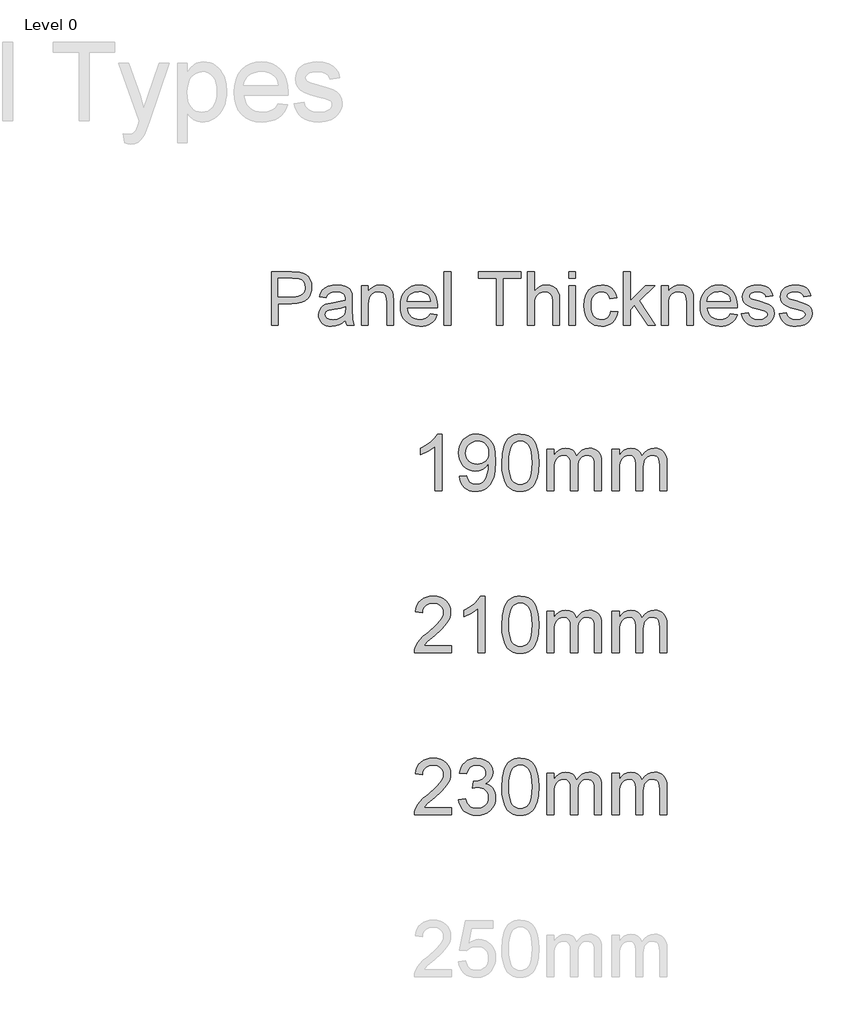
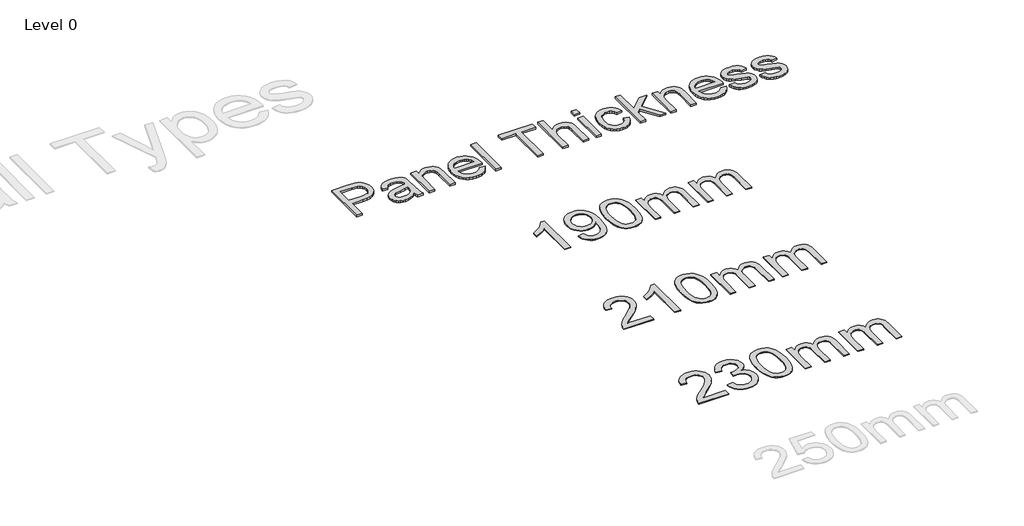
# One storey, part 6 of 11: 4 proxies.
"""IFC4 building model written with IfcOpenShell, lengths in millimetres."""

from ifc_helpers import new_model, si_unit, origin, origin_with_axes, place, context, project, spatial, polyline, outline, extrude, element, save

model = new_model("IFC4")

# Units and contexts
model_context = context("Model", 3, world=origin())
ifc_project = project(units=[si_unit("LENGTHUNIT", "METRE", prefix="MILLI")], contexts=[model_context])

# Site, building, storey
site = spatial("IfcSite", under=ifc_project)
building = spatial("IfcBuilding", under=site)
storey = spatial("IfcBuildingStorey", under=building, Name="Level 0", Elevation=0.0)

# Proxies
placement = place(None, origin())
element("IfcBuildingElementProxy", 1, Name="600mm Arial-500", ObjectType="600mm Arial-500", at=placement, inside=storey, context=model_context, shape_type="SweptSolid", body=[
    extrude(outline(polyline([(20624.1821466, 4207.4986854), (20561.3969527, 4207.4986854), (20561.3969527, 4598.9251283), (20535.1853606, 4577.7259283), (20501.9226968, 4556.5573852), (20435.826565, 4524.8582199), (20435.826565, 4584.2098485), (20485.1380808, 4611.0345773), (20527.8583775, 4642.9483404), (20561.5349085, 4676.8854544), (20583.7151271, 4709.7802362), (20624.1821466, 4709.7802362), (20624.1821466, 4207.4986854)])), origin_with_axes(), (0.0, 0.0, 1.0), 8.0),
    extrude(outline(polyline([(20781.1451312, 4333.0690731), (20843.930325, 4340.9172224), (20854.6602165, 4305.2786541), (20872.1346113, 4281.0137708), (20895.9243137, 4267.0802402), (20925.6001279, 4262.43573), (20952.2255873, 4265.4247713), (20976.4291569, 4274.3918949), (20996.5400393, 4288.3560823), (21010.8874372, 4306.3363148), (21021.7552844, 4329.972733), (21031.4275152, 4360.9054774), (21038.2333321, 4396.40609), (21040.5019378, 4433.7461125), (21040.1340558, 4446.0088456), (21018.3830328, 4419.4600283), (20989.9181634, 4398.4294409), (20956.7934554, 4384.7258366), (20921.0629167, 4380.1579685), (20891.2376503, 4382.9477403), (20863.8112812, 4391.3170557), (20838.7838092, 4405.2659147), (20816.1552344, 4424.7943173), (20797.4047489, 4448.8829237), (20784.011545, 4476.5123944), (20775.9756227, 4507.6827293), (20773.2969819, 4542.3939284), (20776.1059143, 4578.2624229), (20784.5327112, 4610.4520975), (20798.5773728, 4638.9629521), (20818.239899, 4663.7949868), (20842.1330682, 4683.9135334), (20868.8696586, 4698.2839238), (20898.4496703, 4706.9061581), (20930.8731032, 4709.7802362), (20954.8122576, 4708.1400956), (20977.7014155, 4703.2196739), (20999.5405769, 4695.0189711), (21020.3297417, 4683.5379872), (21039.3752992, 4669.0219768), (21055.9836384, 4651.7161946), (21070.1547594, 4631.6206406), (21081.8886622, 4608.7353148), (21091.0895442, 4581.7419734), (21097.6616028, 4549.3223726), (21102.9192496, 4468.2043927), (21097.6769312, 4382.1966479), (21091.1240331, 4346.5159265), (21081.9499759, 4315.7173057), (21070.1892484, 4289.0496931), (21055.8763395, 4265.7619964), (21039.0112493, 4245.8542155), (21019.5939777, 4229.3263505), (20998.0153994, 4216.3431817), (20974.666389, 4207.0694898), (20949.5469466, 4201.5052746), (20922.657072, 4199.6505362), (20894.4604499, 4201.8386677), (20868.9769575, 4208.403062), (20846.2065949, 4219.3437193), (20826.1493619, 4234.6606394), (20809.3110964, 4253.9399552), (20796.1976361, 4276.7677994), (20786.8089811, 4303.1441721), (20781.1451312, 4333.0690731)]), holes=[polyline([(21040.1340558, 4543.8654564), (21038.4402658, 4566.3675717), (21033.3588957, 4586.4171405), (21024.8899456, 4604.0141626), (21013.0334155, 4619.158638), (20998.3717851, 4631.3370649), (20981.4875344, 4640.0359413), (20962.3806632, 4645.2552671), (20941.0511717, 4646.9950423), (20919.0395657, 4645.1211434), (20899.1126243, 4639.4994467), (20881.2703475, 4630.1299521), (20865.5127354, 4617.0126597), (20852.6368656, 4600.9139903), (20843.4398157, 4582.6003648), (20837.9215858, 4562.071783), (20836.0821758, 4539.3282451), (20837.821951, 4518.9299549), (20843.0412769, 4500.532023), (20851.7401532, 4484.1344495), (20863.9185801, 4469.7372343), (20879.0707198, 4458.0148278), (20896.6907345, 4449.6416803), (20916.7786243, 4444.6177918), (20939.3343891, 4442.9431623), (20960.3688086, 4444.6177918), (20979.448855, 4449.6416803), (20996.5745283, 4458.0148278), (21011.7458285, 4469.7372343), (21024.1656779, 4484.4180252), (21033.0369989, 4501.6663258), (21038.3597916, 4521.4821362), (21040.1340558, 4543.8654564)])]), origin_with_axes(), (0.0, 0.0, 1.0), 8.0),
    extrude(outline(polyline([(21157.8562942, 4454.5927589), (21162.4701476, 4534.9903032), (21176.3117077, 4599.1090693), (21186.6583888, 4625.3091651), (21199.2430187, 4647.9300757), (21214.0655974, 4666.9718011), (21231.1261249, 4682.4343412), (21250.4820828, 4694.3981703), (21272.1909526, 4702.9437624), (21296.2527344, 4708.0711177), (21322.6674281, 4709.7802362), (21361.3563512, 4705.7335342), (21395.9985724, 4693.5934284), (21424.9692796, 4673.8350996), (21446.6436604, 4646.9337287), (21463.0144092, 4613.1192419), (21476.0742201, 4572.6215656), (21484.6274764, 4521.1947284), (21487.4785619, 4454.5927589), (21482.9106938, 4374.655067), (21469.2070895, 4310.6895851), (21458.9408826, 4284.4779929), (21446.4137342, 4261.8225934), (21431.6256444, 4242.7233865), (21414.5766132, 4227.1803722), (21395.1976627, 4215.1360689), (21373.419815, 4206.5329952), (21349.2430701, 4201.371151), (21322.6674281, 4199.6505362), (21288.0865205, 4202.6395774), (21257.4296876, 4211.606701), (21230.6969293, 4226.5519071), (21207.8882456, 4247.4751956), (21185.9992669, 4285.2980632), (21170.3642821, 4332.4252796), (21160.9832912, 4388.8568448), (21157.8562942, 4454.5927589)]), holes=[polyline([(21220.6414881, 4454.7153862), (21222.480898, 4400.1347273), (21227.999128, 4355.9543989), (21237.1961779, 4322.1744011), (21250.0720477, 4298.7947339), (21265.6457188, 4282.8876697), (21282.9361726, 4271.525481), (21301.943409, 4264.7081678), (21322.6674281, 4262.43573), (21343.3914471, 4264.715832), (21362.3986835, 4271.5561378), (21379.6891373, 4282.9566476), (21395.2628084, 4298.9173612), (21408.1386783, 4322.3353495), (21417.3357282, 4356.1076831), (21422.8539581, 4400.234362), (21424.6933681, 4454.7153862), (21422.9152718, 4507.8513419), (21417.5809828, 4551.2537531), (21408.6905013, 4584.9226199), (21396.2438271, 4608.8579422), (21380.9307391, 4625.5429235), (21363.4410159, 4637.4607673), (21343.7746575, 4644.6114736), (21321.9316641, 4646.9950423), (21301.3149439, 4644.8950493), (21282.6296043, 4638.5950701), (21265.8756451, 4628.0951048), (21251.0530663, 4613.3951534), (21237.7480008, 4587.3368455), (21228.2443826, 4552.2041149), (21222.5422117, 4507.9969618), (21220.6414881, 4454.7153862)])]), origin_with_axes(), (0.0, 0.0, 1.0), 8.0),
    extrude(outline(polyline([(21558.111905, 4207.4986854), (21558.111905, 4576.3616993), (21620.8970988, 4576.3616993), (21620.8970988, 4515.6611701), (21639.7817079, 4543.5435596), (21664.0619196, 4565.3865531), (21692.9099994, 4579.5040246), (21725.4982128, 4584.2098485), (21760.4163455, 4579.4120541), (21788.406034, 4565.0186711), (21809.313994, 4541.9800611), (21822.9869415, 4511.2465861), (21845.8722673, 4543.1680134), (21871.9765605, 4565.9690329), (21901.2998212, 4579.6496446), (21933.8420494, 4584.2098485), (21958.9768203, 4582.312957), (21981.0382437, 4576.6222823), (22000.0263196, 4567.1378247), (22015.941048, 4553.8595839), (22028.5218458, 4536.6342759), (22037.5081299, 4515.3086165), (22042.8999004, 4489.8826057), (22044.6971573, 4460.3562435), (22044.6971573, 4207.4986854), (21981.9119634, 4207.4986854), (21981.9119634, 4433.3782305), (21980.4557639, 4464.6941853), (21976.0871652, 4485.8014148), (21967.9017908, 4500.2561115), (21954.9952641, 4511.6144681), (21938.3945891, 4518.972108), (21919.1267696, 4521.4246547), (21901.3343102, 4519.853492), (21885.1130134, 4515.1400039), (21870.4628794, 4507.2841905), (21857.3839081, 4496.2860516), (21846.6271918, 4481.8236907), (21838.943823, 4463.5752109), (21834.3338018, 4441.5406122), (21832.797128, 4415.7198947), (21832.797128, 4207.4986854), (21770.0119342, 4207.4986854), (21770.0119342, 4440.3679884), (21766.3790995, 4475.8686009), (21755.4805954, 4501.1911449), (21747.0537984, 4510.0433054), (21736.3047464, 4516.3662772), (21707.839877, 4521.4246547), (21683.6516358, 4518.052403), (21661.3641183, 4507.9356482), (21642.9700185, 4491.3196447), (21630.4620307, 4468.4496473), (21623.2883318, 4436.7198253), (21620.8970988, 4393.5243477), (21620.8970988, 4207.4986854), (21558.111905, 4207.4986854)])), origin_with_axes(), (0.0, 0.0, 1.0), 8.0),
    extrude(outline(polyline([(22138.874948, 4207.4986854), (22138.874948, 4576.3616993), (22201.6601419, 4576.3616993), (22201.6601419, 4515.6611701), (22220.544751, 4543.5435596), (22244.8249626, 4565.3865531), (22273.6730424, 4579.5040246), (22306.2612558, 4584.2098485), (22341.1793885, 4579.4120541), (22369.169077, 4565.0186711), (22390.0770371, 4541.9800611), (22403.7499846, 4511.2465861), (22426.6353103, 4543.1680134), (22452.7396036, 4565.9690329), (22482.0628643, 4579.6496446), (22514.6050924, 4584.2098485), (22539.7398633, 4582.312957), (22561.8012867, 4576.6222823), (22580.7893626, 4567.1378247), (22596.704091, 4553.8595839), (22609.2848888, 4536.6342759), (22618.271173, 4515.3086165), (22623.6629435, 4489.8826057), (22625.4602003, 4460.3562435), (22625.4602003, 4207.4986854), (22562.6750065, 4207.4986854), (22562.6750065, 4433.3782305), (22561.2188069, 4464.6941853), (22556.8502082, 4485.8014148), (22548.6648338, 4500.2561115), (22535.7583072, 4511.6144681), (22519.1576321, 4518.972108), (22499.8898126, 4521.4246547), (22482.0973532, 4519.853492), (22465.8760565, 4515.1400039), (22451.2259225, 4507.2841905), (22438.1469511, 4496.2860516), (22427.3902349, 4481.8236907), (22419.7068661, 4463.5752109), (22415.0968448, 4441.5406122), (22413.5601711, 4415.7198947), (22413.5601711, 4207.4986854), (22350.7749773, 4207.4986854), (22350.7749773, 4440.3679884), (22347.1421426, 4475.8686009), (22336.2436384, 4501.1911449), (22327.8168415, 4510.0433054), (22317.0677894, 4516.3662772), (22288.6029201, 4521.4246547), (22264.4146789, 4518.052403), (22242.1271613, 4507.9356482), (22223.7330616, 4491.3196447), (22211.2250738, 4468.4496473), (22204.0513748, 4436.7198253), (22201.6601419, 4393.5243477), (22201.6601419, 4207.4986854), (22138.874948, 4207.4986854)])), origin_with_axes(), (0.0, 0.0, 1.0), 8.0),
])
element("IfcBuildingElementProxy", 2, Name="600mm Arial-500", ObjectType="600mm Arial-500", at=placement, inside=storey, context=model_context, shape_type="SweptSolid", body=[
    extrude(outline(polyline([(20710.5117881, 2830.2838793), (20710.5117881, 2767.4986854), (20380.8895204, 2767.4986854), (20382.2690779, 2789.602262), (20387.6340237, 2810.7861335), (20403.1310527, 2844.6159487), (20425.8324375, 2877.4340883), (20458.6505771, 2911.7850696), (20504.4978708, 2950.2134097), (20572.2341432, 3010.3927727), (20612.8391184, 3054.8145237), (20633.1186134, 3090.8669592), (20638.1884871, 3108.525295), (20639.878445, 3125.9383761), (20638.2804576, 3142.3206212), (20633.4864954, 3157.3769582), (20625.4965583, 3171.1073873), (20614.3106464, 3183.5119083), (20600.5495605, 3193.7857794), (20584.8341015, 3201.1242588), (20567.1642694, 3205.5273465), (20547.5400642, 3206.9950423), (20508.3759602, 3201.2622146), (20492.0703571, 3194.0961799), (20477.9490535, 3184.0637313), (20466.5255511, 3171.502094), (20458.313352, 3156.7484932), (20453.3124561, 3139.8029288), (20451.5228635, 3120.6654008), (20388.7376696, 3128.51355), (20394.1371043, 3160.9254867), (20403.9587872, 3189.2447361), (20418.2027182, 3213.4712983), (20436.8688973, 3233.6051733), (20459.528129, 3249.4317633), (20485.7512175, 3260.7364705), (20515.5381628, 3267.5192948), (20548.8889649, 3269.7802362), (20582.5386711, 3267.2663759), (20612.4865648, 3259.724795), (20638.7326459, 3247.1554935), (20661.2769144, 3229.5584714), (20679.3836064, 3208.2366441), (20692.3169577, 3184.492927), (20700.0769686, 3158.3273201), (20702.6636389, 3129.7398234), (20699.8738671, 3099.7114555), (20691.5045517, 3070.2042538), (20676.6513161, 3040.1912144), (20654.4097838, 3008.6453333), (20618.9551565, 2970.983414), (20564.462636, 2922.6222601), (20492.2351376, 2862.2282992), (20463.908224, 2830.2838793), (20710.5117881, 2830.2838793)])), origin_with_axes(), (0.0, 0.0, 1.0), 8.0),
    extrude(outline(polyline([(21008.7414589, 2767.4986854), (20945.956265, 2767.4986854), (20945.956265, 3158.9251283), (20919.7446729, 3137.7259283), (20886.4820091, 3116.5573852), (20820.3858773, 3084.8582199), (20820.3858773, 3144.2098485), (20869.6973931, 3171.0345773), (20912.4176898, 3202.9483404), (20946.0942208, 3236.8854544), (20968.2744394, 3269.7802362), (21008.7414589, 3269.7802362), (21008.7414589, 2767.4986854)])), origin_with_axes(), (0.0, 0.0, 1.0), 8.0),
    extrude(outline(polyline([(21157.8562942, 3014.5927589), (21162.4701476, 3094.9903032), (21176.3117077, 3159.1090693), (21186.6583888, 3185.3091651), (21199.2430187, 3207.9300757), (21214.0655974, 3226.9718011), (21231.1261249, 3242.4343412), (21250.4820828, 3254.3981703), (21272.1909526, 3262.9437624), (21296.2527344, 3268.0711177), (21322.6674281, 3269.7802362), (21361.3563512, 3265.7335342), (21395.9985724, 3253.5934284), (21424.9692796, 3233.8350996), (21446.6436604, 3206.9337287), (21463.0144092, 3173.1192419), (21476.0742201, 3132.6215656), (21484.6274764, 3081.1947284), (21487.4785619, 3014.5927589), (21482.9106938, 2934.655067), (21469.2070895, 2870.6895851), (21458.9408826, 2844.4779929), (21446.4137342, 2821.8225934), (21431.6256444, 2802.7233865), (21414.5766132, 2787.1803722), (21395.1976627, 2775.1360689), (21373.419815, 2766.5329952), (21349.2430701, 2761.371151), (21322.6674281, 2759.6505362), (21288.0865205, 2762.6395774), (21257.4296876, 2771.606701), (21230.6969293, 2786.5519071), (21207.8882456, 2807.4751956), (21185.9992669, 2845.2980632), (21170.3642821, 2892.4252796), (21160.9832912, 2948.8568448), (21157.8562942, 3014.5927589)]), holes=[polyline([(21220.6414881, 3014.7153862), (21222.480898, 2960.1347273), (21227.999128, 2915.9543989), (21237.1961779, 2882.1744011), (21250.0720477, 2858.7947339), (21265.6457188, 2842.8876697), (21282.9361726, 2831.525481), (21301.943409, 2824.7081678), (21322.6674281, 2822.43573), (21343.3914471, 2824.715832), (21362.3986835, 2831.5561378), (21379.6891373, 2842.9566476), (21395.2628084, 2858.9173612), (21408.1386783, 2882.3353495), (21417.3357282, 2916.1076831), (21422.8539581, 2960.234362), (21424.6933681, 3014.7153862), (21422.9152718, 3067.8513419), (21417.5809828, 3111.2537531), (21408.6905013, 3144.9226199), (21396.2438271, 3168.8579422), (21380.9307391, 3185.5429235), (21363.4410159, 3197.4607673), (21343.7746575, 3204.6114736), (21321.9316641, 3206.9950423), (21301.3149439, 3204.8950493), (21282.6296043, 3198.5950701), (21265.8756451, 3188.0951048), (21251.0530663, 3173.3951534), (21237.7480008, 3147.3368455), (21228.2443826, 3112.2041149), (21222.5422117, 3067.9969618), (21220.6414881, 3014.7153862)])]), origin_with_axes(), (0.0, 0.0, 1.0), 8.0),
    extrude(outline(polyline([(21558.111905, 2767.4986854), (21558.111905, 3136.3616993), (21620.8970988, 3136.3616993), (21620.8970988, 3075.6611701), (21639.7817079, 3103.5435596), (21664.0619196, 3125.3865531), (21692.9099994, 3139.5040246), (21725.4982128, 3144.2098485), (21760.4163455, 3139.4120541), (21788.406034, 3125.0186711), (21809.313994, 3101.9800611), (21822.9869415, 3071.2465861), (21845.8722673, 3103.1680134), (21871.9765605, 3125.9690329), (21901.2998212, 3139.6496446), (21933.8420494, 3144.2098485), (21958.9768203, 3142.312957), (21981.0382437, 3136.6222823), (22000.0263196, 3127.1378247), (22015.941048, 3113.8595839), (22028.5218458, 3096.6342759), (22037.5081299, 3075.3086165), (22042.8999004, 3049.8826057), (22044.6971573, 3020.3562435), (22044.6971573, 2767.4986854), (21981.9119634, 2767.4986854), (21981.9119634, 2993.3782305), (21980.4557639, 3024.6941853), (21976.0871652, 3045.8014148), (21967.9017908, 3060.2561115), (21954.9952641, 3071.6144681), (21938.3945891, 3078.972108), (21919.1267696, 3081.4246547), (21901.3343102, 3079.853492), (21885.1130134, 3075.1400039), (21870.4628794, 3067.2841905), (21857.3839081, 3056.2860516), (21846.6271918, 3041.8236907), (21838.943823, 3023.5752109), (21834.3338018, 3001.5406122), (21832.797128, 2975.7198947), (21832.797128, 2767.4986854), (21770.0119342, 2767.4986854), (21770.0119342, 3000.3679884), (21766.3790995, 3035.8686009), (21755.4805954, 3061.1911449), (21747.0537984, 3070.0433054), (21736.3047464, 3076.3662772), (21707.839877, 3081.4246547), (21683.6516358, 3078.052403), (21661.3641183, 3067.9356482), (21642.9700185, 3051.3196447), (21630.4620307, 3028.4496473), (21623.2883318, 2996.7198253), (21620.8970988, 2953.5243477), (21620.8970988, 2767.4986854), (21558.111905, 2767.4986854)])), origin_with_axes(), (0.0, 0.0, 1.0), 8.0),
    extrude(outline(polyline([(22138.874948, 2767.4986854), (22138.874948, 3136.3616993), (22201.6601419, 3136.3616993), (22201.6601419, 3075.6611701), (22220.544751, 3103.5435596), (22244.8249626, 3125.3865531), (22273.6730424, 3139.5040246), (22306.2612558, 3144.2098485), (22341.1793885, 3139.4120541), (22369.169077, 3125.0186711), (22390.0770371, 3101.9800611), (22403.7499846, 3071.2465861), (22426.6353103, 3103.1680134), (22452.7396036, 3125.9690329), (22482.0628643, 3139.6496446), (22514.6050924, 3144.2098485), (22539.7398633, 3142.312957), (22561.8012867, 3136.6222823), (22580.7893626, 3127.1378247), (22596.704091, 3113.8595839), (22609.2848888, 3096.6342759), (22618.271173, 3075.3086165), (22623.6629435, 3049.8826057), (22625.4602003, 3020.3562435), (22625.4602003, 2767.4986854), (22562.6750065, 2767.4986854), (22562.6750065, 2993.3782305), (22561.2188069, 3024.6941853), (22556.8502082, 3045.8014148), (22548.6648338, 3060.2561115), (22535.7583072, 3071.6144681), (22519.1576321, 3078.972108), (22499.8898126, 3081.4246547), (22482.0973532, 3079.853492), (22465.8760565, 3075.1400039), (22451.2259225, 3067.2841905), (22438.1469511, 3056.2860516), (22427.3902349, 3041.8236907), (22419.7068661, 3023.5752109), (22415.0968448, 3001.5406122), (22413.5601711, 2975.7198947), (22413.5601711, 2767.4986854), (22350.7749773, 2767.4986854), (22350.7749773, 3000.3679884), (22347.1421426, 3035.8686009), (22336.2436384, 3061.1911449), (22327.8168415, 3070.0433054), (22317.0677894, 3076.3662772), (22288.6029201, 3081.4246547), (22264.4146789, 3078.052403), (22242.1271613, 3067.9356482), (22223.7330616, 3051.3196447), (22211.2250738, 3028.4496473), (22204.0513748, 2996.7198253), (22201.6601419, 2953.5243477), (22201.6601419, 2767.4986854), (22138.874948, 2767.4986854)])), origin_with_axes(), (0.0, 0.0, 1.0), 8.0),
])
element("IfcBuildingElementProxy", 3, Name="600mm Arial-500", ObjectType="600mm Arial-500", at=placement, inside=storey, context=model_context, shape_type="SweptSolid", body=[
    extrude(outline(polyline([(20710.5117881, 1390.2838793), (20710.5117881, 1327.4986854), (20380.8895204, 1327.4986854), (20382.2690779, 1349.602262), (20387.6340237, 1370.7861335), (20403.1310527, 1404.6159487), (20425.8324375, 1437.4340883), (20458.6505771, 1471.7850696), (20504.4978708, 1510.2134097), (20572.2341432, 1570.3927727), (20612.8391184, 1614.8145237), (20633.1186134, 1650.8669592), (20638.1884871, 1668.525295), (20639.878445, 1685.9383761), (20638.2804576, 1702.3206212), (20633.4864954, 1717.3769582), (20625.4965583, 1731.1073873), (20614.3106464, 1743.5119083), (20600.5495605, 1753.7857794), (20584.8341015, 1761.1242588), (20567.1642694, 1765.5273465), (20547.5400642, 1766.9950423), (20508.3759602, 1761.2622146), (20492.0703571, 1754.0961799), (20477.9490535, 1744.0637313), (20466.5255511, 1731.502094), (20458.313352, 1716.7484932), (20453.3124561, 1699.8029288), (20451.5228635, 1680.6654008), (20388.7376696, 1688.51355), (20394.1371043, 1720.9254867), (20403.9587872, 1749.2447361), (20418.2027182, 1773.4712983), (20436.8688973, 1793.6051733), (20459.528129, 1809.4317633), (20485.7512175, 1820.7364705), (20515.5381628, 1827.5192948), (20548.8889649, 1829.7802362), (20582.5386711, 1827.2663759), (20612.4865648, 1819.724795), (20638.7326459, 1807.1554935), (20661.2769144, 1789.5584714), (20679.3836064, 1768.2366441), (20692.3169577, 1744.492927), (20700.0769686, 1718.3273201), (20702.6636389, 1689.7398234), (20699.8738671, 1659.7114555), (20691.5045517, 1630.2042538), (20676.6513161, 1600.1912144), (20654.4097838, 1568.6453333), (20618.9551565, 1530.983414), (20564.462636, 1482.6222601), (20492.2351376, 1422.2282992), (20463.908224, 1390.2838793), (20710.5117881, 1390.2838793)])), origin_with_axes(), (0.0, 0.0, 1.0), 8.0),
    extrude(outline(polyline([(20773.2969819, 1460.9172224), (20836.0821758, 1468.7653716), (20850.1383337, 1429.3100276), (20859.6151272, 1414.3878142), (20870.724397, 1402.6692398), (20883.7190621, 1393.8170793), (20898.8520412, 1387.4941075), (20935.5329418, 1382.43573), (20958.2803118, 1384.1755053), (20978.5751352, 1389.3948311), (20996.417412, 1398.0937075), (21011.8071421, 1410.2721343), (21024.2001669, 1425.018071), (21033.0523274, 1441.4194766), (21038.3636237, 1459.4763512), (21040.1340558, 1479.1886948), (21038.3789521, 1497.9621728), (21033.113641, 1515.0418609), (21024.3381226, 1530.4277589), (21012.0523968, 1544.1198669), (20997.0612055, 1555.3594283), (20980.1692906, 1563.3876864), (20961.376652, 1568.2046413), (20940.6832897, 1569.8102929), (20896.6600777, 1562.9431623), (20903.6498356, 1625.7283562), (20913.7052768, 1624.9925922), (20951.3212108, 1629.4991466), (20984.9517565, 1643.01881), (20998.7933166, 1653.2428637), (21008.6801452, 1665.8888073), (21014.6122424, 1680.9566407), (21016.5896081, 1698.4463639), (21010.8567803, 1725.5623326), (20993.658297, 1747.5586103), (20967.4160481, 1762.1359343), (20934.5519232, 1766.9950423), (20901.6264846, 1762.0899491), (20874.7097853, 1747.3746693), (20863.8189454, 1736.3382094), (20855.0587554, 1722.8492029), (20843.930325, 1688.51355), (20781.1451312, 1696.3616993), (20788.5870774, 1726.3364177), (20799.6312014, 1752.739615), (20814.2775034, 1775.5712914), (20832.5259832, 1794.8314466), (20853.8018252, 1810.1215421), (20877.5302139, 1821.0430388), (20903.7111492, 1827.5959368), (20932.3446312, 1829.7802362), (20971.8153036, 1825.4729512), (21008.0670085, 1812.5510961), (21038.631871, 1792.1643022), (21061.0420158, 1765.4622007), (21074.7916054, 1734.6980688), (21079.3748019, 1702.1251839), (21075.0215316, 1671.7749193), (21061.9617208, 1644.2450833), (21040.3793104, 1620.7926061), (21010.4582415, 1602.6744178), (21031.38153, 1596.129184), (21049.7603013, 1586.7941784), (21065.5945555, 1574.6694009), (21078.8842926, 1559.7548517), (21089.3995863, 1542.4184127), (21096.9105104, 1523.0279659), (21101.4170648, 1501.5835112), (21102.9192496, 1478.0850488), (21099.91488, 1446.2325994), (21090.9017711, 1416.8940103), (21075.879923, 1390.0692814), (21054.8493356, 1365.7584129), (21029.2278875, 1345.5862169), (21000.4334571, 1331.1775054), (20968.4660446, 1322.5322785), (20933.3256498, 1319.6505362), (20901.5651709, 1322.110747), (20872.6251206, 1329.4913796), (20846.505499, 1341.7924338), (20823.2063059, 1359.0139097), (20803.6702392, 1380.1441318), (20788.8399962, 1404.1714246), (20778.7155772, 1431.0957881), (20773.2969819, 1460.9172224)])), origin_with_axes(), (0.0, 0.0, 1.0), 8.0),
    extrude(outline(polyline([(21157.8562942, 1574.5927589), (21162.4701476, 1654.9903032), (21176.3117077, 1719.1090693), (21186.6583888, 1745.3091651), (21199.2430187, 1767.9300757), (21214.0655974, 1786.9718011), (21231.1261249, 1802.4343412), (21250.4820828, 1814.3981703), (21272.1909526, 1822.9437624), (21296.2527344, 1828.0711177), (21322.6674281, 1829.7802362), (21361.3563512, 1825.7335342), (21395.9985724, 1813.5934284), (21424.9692796, 1793.8350996), (21446.6436604, 1766.9337287), (21463.0144092, 1733.1192419), (21476.0742201, 1692.6215656), (21484.6274764, 1641.1947284), (21487.4785619, 1574.5927589), (21482.9106938, 1494.655067), (21469.2070895, 1430.6895851), (21458.9408826, 1404.4779929), (21446.4137342, 1381.8225934), (21431.6256444, 1362.7233865), (21414.5766132, 1347.1803722), (21395.1976627, 1335.1360689), (21373.419815, 1326.5329952), (21349.2430701, 1321.371151), (21322.6674281, 1319.6505362), (21288.0865205, 1322.6395774), (21257.4296876, 1331.606701), (21230.6969293, 1346.5519071), (21207.8882456, 1367.4751956), (21185.9992669, 1405.2980632), (21170.3642821, 1452.4252796), (21160.9832912, 1508.8568448), (21157.8562942, 1574.5927589)]), holes=[polyline([(21220.6414881, 1574.7153862), (21222.480898, 1520.1347273), (21227.999128, 1475.9543989), (21237.1961779, 1442.1744011), (21250.0720477, 1418.7947339), (21265.6457188, 1402.8876697), (21282.9361726, 1391.525481), (21301.943409, 1384.7081678), (21322.6674281, 1382.43573), (21343.3914471, 1384.715832), (21362.3986835, 1391.5561378), (21379.6891373, 1402.9566476), (21395.2628084, 1418.9173612), (21408.1386783, 1442.3353495), (21417.3357282, 1476.1076831), (21422.8539581, 1520.234362), (21424.6933681, 1574.7153862), (21422.9152718, 1627.8513419), (21417.5809828, 1671.2537531), (21408.6905013, 1704.9226199), (21396.2438271, 1728.8579422), (21380.9307391, 1745.5429235), (21363.4410159, 1757.4607673), (21343.7746575, 1764.6114736), (21321.9316641, 1766.9950423), (21301.3149439, 1764.8950493), (21282.6296043, 1758.5950701), (21265.8756451, 1748.0951048), (21251.0530663, 1733.3951534), (21237.7480008, 1707.3368455), (21228.2443826, 1672.2041149), (21222.5422117, 1627.9969618), (21220.6414881, 1574.7153862)])]), origin_with_axes(), (0.0, 0.0, 1.0), 8.0),
    extrude(outline(polyline([(21558.111905, 1327.4986854), (21558.111905, 1696.3616993), (21620.8970988, 1696.3616993), (21620.8970988, 1635.6611701), (21639.7817079, 1663.5435596), (21664.0619196, 1685.3865531), (21692.9099994, 1699.5040246), (21725.4982128, 1704.2098485), (21760.4163455, 1699.4120541), (21788.406034, 1685.0186711), (21809.313994, 1661.9800611), (21822.9869415, 1631.2465861), (21845.8722673, 1663.1680134), (21871.9765605, 1685.9690329), (21901.2998212, 1699.6496446), (21933.8420494, 1704.2098485), (21958.9768203, 1702.312957), (21981.0382437, 1696.6222823), (22000.0263196, 1687.1378247), (22015.941048, 1673.8595839), (22028.5218458, 1656.6342759), (22037.5081299, 1635.3086165), (22042.8999004, 1609.8826057), (22044.6971573, 1580.3562435), (22044.6971573, 1327.4986854), (21981.9119634, 1327.4986854), (21981.9119634, 1553.3782305), (21980.4557639, 1584.6941853), (21976.0871652, 1605.8014148), (21967.9017908, 1620.2561115), (21954.9952641, 1631.6144681), (21938.3945891, 1638.972108), (21919.1267696, 1641.4246547), (21901.3343102, 1639.853492), (21885.1130134, 1635.1400039), (21870.4628794, 1627.2841905), (21857.3839081, 1616.2860516), (21846.6271918, 1601.8236907), (21838.943823, 1583.5752109), (21834.3338018, 1561.5406122), (21832.797128, 1535.7198947), (21832.797128, 1327.4986854), (21770.0119342, 1327.4986854), (21770.0119342, 1560.3679884), (21766.3790995, 1595.8686009), (21755.4805954, 1621.1911449), (21747.0537984, 1630.0433054), (21736.3047464, 1636.3662772), (21707.839877, 1641.4246547), (21683.6516358, 1638.052403), (21661.3641183, 1627.9356482), (21642.9700185, 1611.3196447), (21630.4620307, 1588.4496473), (21623.2883318, 1556.7198253), (21620.8970988, 1513.5243477), (21620.8970988, 1327.4986854), (21558.111905, 1327.4986854)])), origin_with_axes(), (0.0, 0.0, 1.0), 8.0),
    extrude(outline(polyline([(22138.874948, 1327.4986854), (22138.874948, 1696.3616993), (22201.6601419, 1696.3616993), (22201.6601419, 1635.6611701), (22220.544751, 1663.5435596), (22244.8249626, 1685.3865531), (22273.6730424, 1699.5040246), (22306.2612558, 1704.2098485), (22341.1793885, 1699.4120541), (22369.169077, 1685.0186711), (22390.0770371, 1661.9800611), (22403.7499846, 1631.2465861), (22426.6353103, 1663.1680134), (22452.7396036, 1685.9690329), (22482.0628643, 1699.6496446), (22514.6050924, 1704.2098485), (22539.7398633, 1702.312957), (22561.8012867, 1696.6222823), (22580.7893626, 1687.1378247), (22596.704091, 1673.8595839), (22609.2848888, 1656.6342759), (22618.271173, 1635.3086165), (22623.6629435, 1609.8826057), (22625.4602003, 1580.3562435), (22625.4602003, 1327.4986854), (22562.6750065, 1327.4986854), (22562.6750065, 1553.3782305), (22561.2188069, 1584.6941853), (22556.8502082, 1605.8014148), (22548.6648338, 1620.2561115), (22535.7583072, 1631.6144681), (22519.1576321, 1638.972108), (22499.8898126, 1641.4246547), (22482.0973532, 1639.853492), (22465.8760565, 1635.1400039), (22451.2259225, 1627.2841905), (22438.1469511, 1616.2860516), (22427.3902349, 1601.8236907), (22419.7068661, 1583.5752109), (22415.0968448, 1561.5406122), (22413.5601711, 1535.7198947), (22413.5601711, 1327.4986854), (22350.7749773, 1327.4986854), (22350.7749773, 1560.3679884), (22347.1421426, 1595.8686009), (22336.2436384, 1621.1911449), (22327.8168415, 1630.0433054), (22317.0677894, 1636.3662772), (22288.6029201, 1641.4246547), (22264.4146789, 1638.052403), (22242.1271613, 1627.9356482), (22223.7330616, 1611.3196447), (22211.2250738, 1588.4496473), (22204.0513748, 1556.7198253), (22201.6601419, 1513.5243477), (22201.6601419, 1327.4986854), (22138.874948, 1327.4986854)])), origin_with_axes(), (0.0, 0.0, 1.0), 8.0),
])
element("IfcBuildingElementProxy", 4, Name="Arial-500 Blanco", ObjectType="Arial-500 Blanco", at=placement, inside=storey, context=model_context, shape_type="SweptSolid", body=[
    extrude(outline(polyline([(19108.0494051, 5675.3857513), (19108.0494051, 6155.0189703), (19285.804099, 6155.0189703), (19357.4680468, 6150.4521501), (19389.4211509, 6141.9186367), (19415.7242788, 6128.0278919), (19436.9043712, 6108.1505143), (19453.4883689, 6081.6571022), (19464.2028317, 6050.4065858), (19467.7743193, 6016.257895), (19465.3628333, 5986.8150782), (19458.1283754, 5959.7288578), (19446.0709454, 5934.9992336), (19429.1905435, 5912.6262058), (19406.0161266, 5894.0808174), (19375.0766516, 5880.8341113), (19336.3721185, 5872.8860877), (19289.9025274, 5870.2367465), (19168.0035574, 5870.2367465), (19168.0035574, 5675.3857513), (19108.0494051, 5675.3857513)]), holes=[polyline([(19168.0035574, 5930.1908989), (19293.415466, 5930.1908989), (19322.2508371, 5931.5667999), (19346.5779371, 5935.6945027), (19366.3967658, 5942.5740075), (19381.7073232, 5952.2053142), (19393.1316923, 5964.3322711), (19401.291956, 5978.6987263), (19406.1881142, 5995.3046799), (19407.8201669, 6014.1501318), (19403.9705717, 6041.0826612), (19392.421786, 6063.7996643), (19374.6082598, 6080.8959655), (19351.9644429, 6090.9663895), (19292.0102906, 6095.0648179), (19168.0035574, 6095.0648179), (19168.0035574, 5930.1908989)])]), origin_with_axes(), (0.0, 0.0, 1.0), 20.0),
    extrude(outline(polyline([(19767.5450812, 5720.3513656), (19738.8999942, 5695.7900698), (19709.4059471, 5679.7183756), (19678.3896266, 5670.8482056), (19645.1777194, 5667.8914823), (19618.4830452, 5669.6699074), (19595.0744324, 5675.005183), (19574.9518809, 5683.8973088), (19558.1153907, 5696.346285), (19544.8211136, 5711.5617004), (19535.3252014, 5728.7531438), (19529.6276541, 5747.9206151), (19527.7284717, 5769.0641144), (19530.5973716, 5793.9181551), (19539.2040712, 5816.4887857), (19552.4800517, 5835.8099481), (19569.3567943, 5850.9155841), (19589.1902602, 5862.3326346), (19611.3364107, 5870.5880404), (19663.2108043, 5879.6045828), (19724.5115831, 5889.0895171), (19767.1937873, 5900.2138227), (19767.5450812, 5913.5629894), (19763.4173783, 5940.3198719), (19751.0342697, 5957.826016), (19723.3406036, 5970.8238889), (19684.7568278, 5975.1565132), (19649.0419519, 5972.2729761), (19624.1000877, 5963.6223647), (19607.0916099, 5947.6238568), (19595.1768931, 5922.6966299), (19535.2227407, 5930.1908989), (19545.6298214, 5962.978326), (19561.1599375, 5988.7398758), (19583.2621763, 6008.4416066), (19613.3856249, 6023.0495763), (19650.2275687, 6032.0953932), (19692.4852928, 6035.1106656), (19733.015822, 6032.4466871), (19765.1445731, 6024.4547518), (19789.3692123, 6012.4375742), (19806.187406, 5997.6978693), (19817.3409861, 5979.4745002), (19824.5717847, 5957.0063303), (19827.4992336, 5904.546447), (19827.4992336, 5829.9550504), (19830.5437804, 5725.7964204), (19842.4877717, 5675.3857513), (19782.5336193, 5675.3857513), (19772.9315871, 5696.2291871), (19767.5450812, 5720.3513656)]), holes=[polyline([(19767.5450812, 5840.2596703), (19727.2633851, 5830.2770698), (19670.8221713, 5821.8752916), (19619.2405226, 5812.1561614), (19605.8181697, 5805.5108525), (19595.8794808, 5796.3479376), (19589.7318383, 5785.3700045), (19587.6826241, 5773.2796407), (19592.1469835, 5755.4514773), (19605.540062, 5740.8435075), (19627.5691146, 5731.0951028), (19657.9413964, 5727.8456346), (19690.1433337, 5731.4317595), (19718.5981365, 5742.190134), (19741.6664334, 5758.0422695), (19757.7088531, 5776.9096773), (19764.8225538, 5796.3479376), (19767.1937873, 5823.280467), (19767.5450812, 5840.2596703)])]), origin_with_axes(), (0.0, 0.0, 1.0), 20.0),
    extrude(outline(polyline([(19909.9361931, 5675.3857513), (19909.9361931, 6027.6163965), (19969.8903455, 6027.6163965), (19969.8903455, 5978.4352559), (19990.719144, 6003.2307476), (20015.7341944, 6020.9418131), (20044.9354966, 6031.5684525), (20078.3230507, 6035.1106656), (20107.8756468, 6032.2564029), (20134.9399114, 6023.6936151), (20157.510542, 6010.4908208), (20173.5822362, 5993.7165389), (20184.4869831, 5973.4146811), (20191.5567721, 5949.6291592), (20194.7184169, 5891.6656721), (20194.7184169, 5675.3857513), (20134.7642645, 5675.3857513), (20134.7642645, 5883.5859133), (20133.0370697, 5914.5875965), (20127.8554852, 5936.6312864), (20118.2973647, 5952.4248729), (20103.4405618, 5964.6762463), (20084.3975071, 5972.5364465), (20062.280631, 5975.1565132), (20027.1658821, 5969.272341), (20011.5516018, 5961.9171258), (19997.2327177, 5951.6198245), (19985.2704298, 5937.2094575), (19976.7259385, 5917.5150454), (19971.5992437, 5892.5365881), (19969.8903455, 5862.2740857), (19969.8903455, 5675.3857513), (19909.9361931, 5675.3857513)])), origin_with_axes(), (0.0, 0.0, 1.0), 20.0),
    extrude(outline(polyline([(20523.7636672, 5780.305518), (20582.54684, 5772.8112489), (20573.5339569, 5749.2672416), (20561.3667476, 5728.5189479), (20546.0452122, 5710.5663678), (20527.5693507, 5695.4095014), (20506.1294472, 5683.370368), (20481.9157859, 5674.770987), (20454.9283669, 5669.6113585), (20425.1671901, 5667.8914823), (20387.9666338, 5670.8591835), (20354.8205943, 5679.7622873), (20325.7290714, 5694.6007937), (20300.6920651, 5715.3747025), (20280.5585357, 5741.5058428), (20266.1774432, 5772.4160433), (20257.5487877, 5808.1053041), (20254.6725692, 5848.5736251), (20257.5780622, 5890.4141877), (20266.2945412, 5927.2927245), (20280.8220061, 5959.2092356), (20301.1604569, 5986.1637208), (20326.1315956, 6007.5780092), (20354.5571239, 6022.8739294), (20386.4370418, 6032.0514815), (20421.7713494, 6035.1106656), (20455.9676112, 6032.0588001), (20486.892449, 6022.9032039), (20514.5458626, 6007.6438768), (20538.9278522, 5986.2808188), (20558.8308451, 5959.3848825), (20573.0472685, 5927.5269204), (20581.5771226, 5890.7069326), (20584.4204073, 5848.9249189), (20584.0691134, 5832.7654013), (20314.6267216, 5832.7654013), (20318.0994078, 5808.8408256), (20325.0045278, 5787.8876105), (20335.3420815, 5769.9057559), (20349.112069, 5754.895262), (20365.5533536, 5743.06105), (20383.9047986, 5734.6080415), (20404.1664039, 5729.5362363), (20426.3381696, 5727.8456346), (20458.247362, 5730.9780049), (20485.1213424, 5740.3751157), (20506.9601108, 5756.6224568), (20523.7636672, 5780.305518)]), holes=[polyline([(20314.6267216, 5892.7195537), (20524.4662549, 5892.7195537), (20516.3572216, 5924.3945502), (20500.4611744, 5947.0530043), (20484.1113726, 5959.3482894), (20465.5074352, 5968.1306359), (20444.6493621, 5973.4000439), (20421.5371535, 5975.1565132), (20381.1237222, 5969.5504486), (20363.5407325, 5962.542868), (20347.7068936, 5952.732255), (20334.4199351, 5940.5723644), (20324.477587, 5926.5169506), (20317.8798491, 5910.5660137), (20314.6267216, 5892.7195537)])]), origin_with_axes(), (0.0, 0.0, 1.0), 20.0),
    extrude(outline(polyline([(20644.3745597, 5675.3857513), (20644.3745597, 6155.0189703), (20704.3287121, 6155.0189703), (20704.3287121, 5675.3857513), (20644.3745597, 5675.3857513)])), origin_with_axes(), (0.0, 0.0, 1.0), 20.0),
    extrude(outline(polyline([(21109.0192406, 5675.3857513), (21109.0192406, 6095.0648179), (20951.6395906, 6095.0648179), (20951.6395906, 6155.0189703), (21326.353043, 6155.0189703), (21326.353043, 6095.0648179), (21168.973393, 6095.0648179), (21168.973393, 5675.3857513), (21109.0192406, 5675.3857513)])), origin_with_axes(), (0.0, 0.0, 1.0), 20.0),
    extrude(outline(polyline([(21386.3071953, 5675.3857513), (21386.3071953, 6155.0189703), (21446.2613477, 6155.0189703), (21446.2613477, 5978.6694518), (21468.2830817, 6003.3624828), (21493.0127058, 6021.0003621), (21520.4502201, 6031.5830897), (21550.5956246, 6035.1106656), (21586.8081668, 6031.2610703), (21617.9269481, 6019.7122846), (21642.4296949, 6001.3718176), (21658.794134, 5977.1471784), (21668.0155978, 5943.862085), (21671.0894191, 5898.3402554), (21671.0894191, 5675.3857513), (21611.1352667, 5675.3857513), (21611.1352667, 5892.1340639), (21606.3635251, 5929.6639581), (21600.3988481, 5943.9938202), (21592.0483003, 5955.366959), (21568.9800033, 5970.2091246), (21537.9490456, 5975.1565132), (21512.6119758, 5971.8192215), (21488.8264539, 5961.8073464), (21469.1247232, 5946.0869461), (21456.0390269, 5925.6240787), (21448.7057675, 5898.4280789), (21446.2613477, 5862.5082816), (21446.2613477, 5675.3857513), (21386.3071953, 5675.3857513)])), origin_with_axes(), (0.0, 0.0, 1.0), 20.0),
    extrude(outline(polyline([(21753.5263786, 6095.0648179), (21753.5263786, 6155.0189703), (21813.480531, 6155.0189703), (21813.480531, 6095.0648179), (21753.5263786, 6095.0648179)])), origin_with_axes(), (0.0, 0.0, 1.0), 20.0),
    extrude(outline(polyline([(21753.5263786, 5675.3857513), (21753.5263786, 6027.6163965), (21813.480531, 6027.6163965), (21813.480531, 5675.3857513), (21753.5263786, 5675.3857513)])), origin_with_axes(), (0.0, 0.0, 1.0), 20.0),
    extrude(outline(polyline([(22128.239831, 5802.7883251), (22188.1939834, 5795.2940561), (22181.673091, 5767.0039223), (22171.4782504, 5741.9705753), (22157.6094615, 5720.1940152), (22140.0667243, 5701.6742419), (22119.5892196, 5686.8942846), (22096.9161283, 5676.3371722), (22072.0474504, 5670.0029047), (22044.9831858, 5667.8914823), (22011.3577765, 5670.8372277), (21981.2087127, 5679.6744639), (21954.5359944, 5694.4031909), (21931.3396216, 5715.0234087), (21912.5636965, 5741.1472303), (21899.1523215, 5772.3867688), (21891.1054965, 5808.7420242), (21888.4232215, 5850.2129964), (21893.0046789, 5903.5657516), (21906.7490513, 5949.8048062), (21917.1122202, 5969.8102597), (21929.8758971, 5987.1444162), (21945.0400822, 6001.8072756), (21962.6047752, 6013.798838), (22001.7594036, 6029.7827087), (22044.1635001, 6035.1106656), (22070.7630322, 6033.28101), (22094.8230024, 6027.7920434), (22116.3434107, 6018.6437658), (22135.3242572, 6005.8361771), (22151.4435224, 5989.6620222), (22164.379187, 5970.414046), (22174.131251, 5948.0922486), (22180.6997143, 5922.6966299), (22120.7455619, 5915.2023608), (22109.8700895, 5941.3591162), (22092.9347979, 5960.1094261), (22070.8764708, 5971.3947414), (22044.6318919, 5975.1565132), (22024.2605073, 5973.3049018), (22005.8871064, 5967.7500676), (21989.5116895, 5958.4920106), (21975.1342563, 5945.5307309), (21963.4281202, 5928.5661648), (21955.0665945, 5907.2982489), (21950.049679, 5881.7269832), (21948.3773738, 5851.8523678), (21950.0130859, 5821.527657), (21954.920222, 5795.6599872), (21963.0987822, 5774.2493582), (21974.5487665, 5757.29577), (21988.6407734, 5744.4113358), (22004.7454014, 5735.2081685), (22022.8626504, 5729.6862681), (22042.9925206, 5727.8456346), (22074.0381156, 5732.4417293), (22099.4922833, 5746.2300134), (22118.0083973, 5769.5617807), (22128.239831, 5802.7883251)])), origin_with_axes(), (0.0, 0.0, 1.0), 20.0),
    extrude(outline(polyline([(22240.6538667, 5675.3857513), (22240.6538667, 6155.0189703), (22300.6080191, 6155.0189703), (22300.6080191, 5897.2863739), (22435.0364701, 6027.6163965), (22517.9418214, 6027.6163965), (22381.7569011, 5895.6470025), (22525.4360905, 5675.3857513), (22455.4115141, 5675.3857513), (22338.781952, 5853.9601309), (22300.6080191, 5816.8400796), (22300.6080191, 5675.3857513), (22240.6538667, 5675.3857513)])), origin_with_axes(), (0.0, 0.0, 1.0), 20.0),
    extrude(outline(polyline([(22577.8959738, 5675.3857513), (22577.8959738, 6027.6163965), (22637.8501262, 6027.6163965), (22637.8501262, 5978.4352559), (22658.6789247, 6003.2307476), (22683.6939751, 6020.9418131), (22712.8952773, 6031.5684525), (22746.2828314, 6035.1106656), (22775.8354275, 6032.2564029), (22802.8996921, 6023.6936151), (22825.4703227, 6010.4908208), (22841.5420169, 5993.7165389), (22852.4467639, 5973.4146811), (22859.5165528, 5949.6291592), (22862.6781976, 5891.6656721), (22862.6781976, 5675.3857513), (22802.7240452, 5675.3857513), (22802.7240452, 5883.5859133), (22800.9968504, 5914.5875965), (22795.8152659, 5936.6312864), (22786.2571454, 5952.4248729), (22771.4003425, 5964.6762463), (22752.3572878, 5972.5364465), (22730.2404118, 5975.1565132), (22695.1256629, 5969.272341), (22679.5113826, 5961.9171258), (22665.1924984, 5951.6198245), (22653.2302105, 5937.2094575), (22644.6857192, 5917.5150454), (22639.5590244, 5892.5365881), (22637.8501262, 5862.2740857), (22637.8501262, 5675.3857513), (22577.8959738, 5675.3857513)])), origin_with_axes(), (0.0, 0.0, 1.0), 20.0),
    extrude(outline(polyline([(23191.7234479, 5780.305518), (23250.5066208, 5772.8112489), (23241.4937376, 5749.2672416), (23229.3265284, 5728.5189479), (23214.004993, 5710.5663678), (23195.5291314, 5695.4095014), (23174.0892279, 5683.370368), (23149.8755667, 5674.770987), (23122.8881476, 5669.6113585), (23093.1269708, 5667.8914823), (23055.9264146, 5670.8591835), (23022.780375, 5679.7622873), (22993.6888521, 5694.6007937), (22968.6518458, 5715.3747025), (22948.5183164, 5741.5058428), (22934.1372239, 5772.4160433), (22925.5085684, 5808.1053041), (22922.63235, 5848.5736251), (22925.5378429, 5890.4141877), (22934.2543219, 5927.2927245), (22948.7817868, 5959.2092356), (22969.1202376, 5986.1637208), (22994.0913763, 6007.5780092), (23022.5169046, 6022.8739294), (23054.3968225, 6032.0514815), (23089.7311301, 6035.1106656), (23123.9273919, 6032.0588001), (23154.8522297, 6022.9032039), (23182.5056434, 6007.6438768), (23206.8876329, 5986.2808188), (23226.7906258, 5959.3848825), (23241.0070493, 5927.5269204), (23249.5369033, 5890.7069326), (23252.380188, 5848.9249189), (23252.0288942, 5832.7654013), (22982.5865023, 5832.7654013), (22986.0591885, 5808.8408256), (22992.9643085, 5787.8876105), (23003.3018622, 5769.9057559), (23017.0718497, 5754.895262), (23033.5131343, 5743.06105), (23051.8645793, 5734.6080415), (23072.1261846, 5729.5362363), (23094.2979503, 5727.8456346), (23126.2071427, 5730.9780049), (23153.0811231, 5740.3751157), (23174.9198915, 5756.6224568), (23191.7234479, 5780.305518)]), holes=[polyline([(22982.5865023, 5892.7195537), (23192.4260356, 5892.7195537), (23184.3170023, 5924.3945502), (23168.4209551, 5947.0530043), (23152.0711533, 5959.3482894), (23133.4672159, 5968.1306359), (23112.6091428, 5973.4000439), (23089.4969342, 5975.1565132), (23049.0835029, 5969.5504486), (23031.5005132, 5962.542868), (23015.6666743, 5952.732255), (23002.3797158, 5940.5723644), (22992.4373677, 5926.5169506), (22985.8396299, 5910.5660137), (22982.5865023, 5892.7195537)])]), origin_with_axes(), (0.0, 0.0, 1.0), 20.0),
    extrude(outline(polyline([(23289.8515333, 5780.305518), (23349.8056856, 5787.799787), (23359.2613454, 5762.1553351), (23377.5579007, 5743.3025645), (23404.8124495, 5731.7098671), (23441.1420896, 5727.8456346), (23477.0326125, 5731.3878477), (23502.2672216, 5742.014487), (23517.1972107, 5757.412868), (23522.1738737, 5775.2703059), (23517.1679362, 5790.5515889), (23502.1501236, 5802.2028353), (23440.4395019, 5819.2991366), (23385.725483, 5835.1219976), (23350.1569795, 5848.632174), (23327.3082412, 5863.371879), (23310.753518, 5882.8833255), (23300.6977312, 5905.922348), (23297.3458023, 5931.2447805), (23300.0390552, 5954.4740871), (23308.1188141, 5975.9176499), (23320.8532165, 5994.7265087), (23337.5104005, 6010.0517034), (23354.0651237, 6019.6976474), (23375.6257845, 6027.7920434), (23400.5530114, 6033.28101), (23427.2074331, 6035.1106656), (23466.2303263, 6032.1685795), (23500.1594584, 6023.3423212), (23527.4432816, 6009.4954881), (23546.5302481, 5991.4916777), (23559.1768271, 5967.9989007), (23567.139488, 5937.6851679), (23507.1853356, 5930.1908989), (23499.6178803, 5949.0583067), (23484.6439795, 5963.2710709), (23462.1172606, 5972.1851526), (23431.8913513, 5975.1565132), (23397.4645529, 5972.3168878), (23374.5133539, 5963.7980117), (23361.6033045, 5951.5027265), (23357.2999547, 5937.3338741), (23359.0856985, 5928.1124102), (23364.4429299, 5919.886279), (23373.6058448, 5912.5383824), (23386.8086391, 5906.6542102), (23438.4488367, 5893.8905332), (23526.447949, 5865.6699263), (23549.6918929, 5852.1743871), (23567.3151349, 5833.7021849), (23578.4248033, 5810.1947707), (23582.1280261, 5781.5935955), (23577.7807645, 5752.0263621), (23564.7389799, 5724.2155981), (23543.5003386, 5700.3422527), (23514.5625067, 5682.5872755), (23479.6087675, 5671.5654306), (23440.322404, 5667.8914823), (23408.0545991, 5669.6625888), (23379.8705853, 5674.9759085), (23355.7703627, 5683.8314412), (23335.7539312, 5696.2291871), (23319.4041294, 5712.1105971), (23306.3037958, 5731.4171222), (23296.4529304, 5754.1487625), (23289.8515333, 5780.305518)])), origin_with_axes(), (0.0, 0.0, 1.0), 20.0),
    extrude(outline(polyline([(23627.0936404, 5780.305518), (23687.0477927, 5787.799787), (23696.5034525, 5762.1553351), (23714.8000078, 5743.3025645), (23742.0545566, 5731.7098671), (23778.3841968, 5727.8456346), (23814.2747196, 5731.3878477), (23839.5093287, 5742.014487), (23854.4393178, 5757.412868), (23859.4159808, 5775.2703059), (23854.4100433, 5790.5515889), (23839.3922307, 5802.2028353), (23777.681609, 5819.2991366), (23722.9675901, 5835.1219976), (23687.3990866, 5848.632174), (23664.5503484, 5863.371879), (23647.9956251, 5882.8833255), (23637.9398383, 5905.922348), (23634.5879094, 5931.2447805), (23637.2811624, 5954.4740871), (23645.3609212, 5975.9176499), (23658.0953237, 5994.7265087), (23674.7525076, 6010.0517034), (23691.3072308, 6019.6976474), (23712.8678916, 6027.7920434), (23737.7951185, 6033.28101), (23764.4495402, 6035.1106656), (23803.4724334, 6032.1685795), (23837.4015655, 6023.3423212), (23864.6853887, 6009.4954881), (23883.7723552, 5991.4916777), (23896.4189342, 5967.9989007), (23904.3815951, 5937.6851679), (23844.4274427, 5930.1908989), (23836.8599875, 5949.0583067), (23821.8860866, 5963.2710709), (23799.3593677, 5972.1851526), (23769.1334584, 5975.1565132), (23734.70666, 5972.3168878), (23711.755461, 5963.7980117), (23698.8454116, 5951.5027265), (23694.5420618, 5937.3338741), (23696.3278056, 5928.1124102), (23701.685037, 5919.886279), (23710.8479519, 5912.5383824), (23724.0507462, 5906.6542102), (23775.6909438, 5893.8905332), (23863.6900561, 5865.6699263), (23886.934, 5852.1743871), (23904.557242, 5833.7021849), (23915.6669104, 5810.1947707), (23919.3701332, 5781.5935955), (23915.0228717, 5752.0263621), (23901.9810871, 5724.2155981), (23880.7424457, 5700.3422527), (23851.8046138, 5682.5872755), (23816.8508746, 5671.5654306), (23777.5645111, 5667.8914823), (23745.2967062, 5669.6625888), (23717.1126924, 5674.9759085), (23693.0124698, 5683.8314412), (23672.9960383, 5696.2291871), (23656.6462365, 5712.1105971), (23643.5459029, 5731.4171222), (23633.6950375, 5754.1487625), (23627.0936404, 5780.305518)])), origin_with_axes(), (0.0, 0.0, 1.0), 20.0),
])

save(model, "model.ifc")
